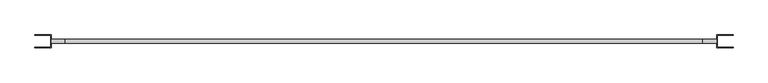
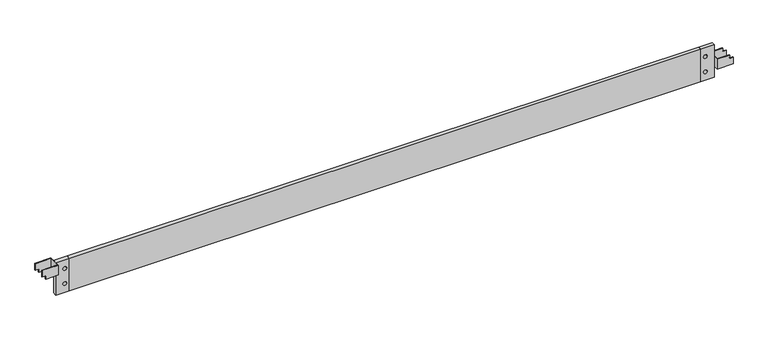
"""IFC4 building model written with IfcOpenShell, lengths in millimetres: proxy geometry, 12-Plinthe 3 m : JPA Plinthe 3 m."""

from ifc_helpers import new_model, si_unit, point, frame, frame_2d, origin, origin_with_axes, place, context, project, spatial, polyline, circle_curve, trimmed, segment, composite_curve, outline, extrude, source, transform, mapped, element, save
from ifc_brep_helpers import plane_surface, revolved_surface, advanced_brep


def generic_models_c9bf4d4e(model_context):
    return source(origin(), model_context, "Body", "SolidModel", [
        advanced_brep(
        [(3000.9896919, -27.4723419, 50.0), (3000.9896919, -27.4723419, 80.0), (2989.9896919, -27.4723419, 80.0), (2985.9896919, -27.4723419, 84.0), (2985.9896919, -27.4723419, 95.0), (2930.9896919, -27.4723419, 95.0), (2930.9896919, -27.4723419, 50.0), (3000.9896919, 27.5276581, 50.0), (2930.9896919, 27.5276581, 50.0), (2930.9896919, 27.5276581, 95.0), (2985.9896919, 27.5276581, 95.0), (2985.9896919, 27.5276581, 84.0), (2989.9896919, 27.5276581, 80.0), (3000.9896919, 27.5276581, 80.0), (3000.9896919, -24.9723419, 50.0), (3000.9896919, -24.9723419, 80.0), (3000.9896919, 25.0276581, 80.0), (3000.9896919, 25.0276581, 50.0), (2989.9896919, -24.9723419, 80.0), (2989.9896919, 25.0276581, 80.0), (2985.9896919, -24.9723419, 84.0), (2985.9896919, 25.0276581, 84.0), (2985.9896919, -24.9723419, 95.0), (2985.9896919, 25.0276581, 95.0), (2933.4896919, -24.9723419, 95.0), (2933.4896919, 25.0276581, 95.0), (2933.4896919, 25.0276581, 50.0), (2933.4896919, -24.9723419, 50.0)],
        [
            (0, 1),
            (1, 2),
            (2, 3, circle_curve(frame((2989.9896919, -27.4723419, 84.0), z_axis=(0.0, 1.0, 0.0), x_axis=(-1.0, 0.0, 0.0)), 4.0)),
            (3, 4),
            (4, 5),
            (5, 6),
            (6, 0),
            (7, 8),
            (8, 9),
            (9, 10),
            (10, 11),
            (11, 12, circle_curve(frame((2989.9896919, 27.5276581, 84.0), z_axis=(0.0, -1.0, 0.0), x_axis=(-1.0, 0.0, 0.0)), 4.0)),
            (12, 13),
            (13, 7),
            (0, 14),
            (14, 15),
            (15, 1),
            (13, 16),
            (16, 17),
            (17, 7),
            (15, 18),
            (18, 2),
            (12, 19),
            (19, 16),
            (18, 20, circle_curve(frame((2989.9896919, -24.9723419, 84.0), z_axis=(0.0, 1.0, 0.0), x_axis=(-1.0, 0.0, 0.0)), 4.0)),
            (20, 3),
            (11, 21),
            (21, 19, circle_curve(frame((2989.9896919, 25.0276581, 84.0), z_axis=(0.0, -1.0, 0.0), x_axis=(-1.0, 0.0, 0.0)), 4.0)),
            (20, 22),
            (22, 4),
            (10, 23),
            (23, 21),
            (22, 24),
            (24, 25),
            (25, 23),
            (9, 5),
            (8, 6),
            (17, 26),
            (26, 27),
            (27, 14),
            (27, 24),
            (25, 26),
        ],
        [
            plane_surface(frame((3000.9896919, -27.4723419, 50.0), z_axis=(0.0, -1.0, 0.0), x_axis=(0.0, 0.0, 1.0))),
            plane_surface(frame((3000.9896919, 27.5276581, 50.0), z_axis=(0.0, 1.0, 0.0), x_axis=(0.0, 0.0, -1.0))),
            plane_surface(frame((3000.9896919, -27.4723419, 50.0), z_axis=(1.0, 0.0, 0.0), x_axis=(0.0, 1.0, 0.0))),
            plane_surface(frame((3000.9896919, -27.4723419, 80.0), z_axis=(0.0, 0.0, 1.0), x_axis=(0.0, 1.0, 0.0))),
            revolved_surface(polyline([(2985.9896919, -24.9723419, 84.0), (2985.9896919, -27.4723419, 84.0)]), (2989.9896919, 27.5276581, 84.0), (0.0, 1.0, 0.0)),
            revolved_surface(polyline([(2985.9896919, 27.5276581, 84.0), (2985.9896919, 25.0276581, 84.0)]), (2989.9896919, 27.5276581, 84.0), (0.0, 1.0, 0.0)),
            plane_surface(frame((2985.9896919, -27.4723419, 84.0), z_axis=(1.0, 0.0, 0.0), x_axis=(0.0, 1.0, 0.0))),
            plane_surface(frame((2985.9896919, -27.4723419, 95.0), z_axis=(0.0, 0.0, 1.0), x_axis=(0.0, 1.0, 0.0))),
            plane_surface(frame((2930.9896919, -27.4723419, 95.0), z_axis=(-1.0, 0.0, 0.0), x_axis=(0.0, 1.0, 0.0))),
            plane_surface(frame((2930.9896919, -27.4723419, 50.0), z_axis=(0.0, 0.0, -1.0), x_axis=(0.0, 1.0, 0.0))),
            plane_surface(frame((2933.4896919, -24.9723419, 250.0), z_axis=(0.0, 1.0, 0.0), x_axis=(0.0, 0.0, -1.0))),
            plane_surface(frame((3000.9896919, 25.0276581, 250.0), z_axis=(0.0, -1.0, 0.0), x_axis=(0.0, 0.0, -1.0))),
            plane_surface(frame((2933.4896919, 25.0276581, 250.0), z_axis=(1.0, 0.0, 0.0), x_axis=(0.0, 0.0, -1.0))),
        ],
        [
            (0, [[1, 2, 3, 4, 5, 6, 7]]),
            (1, [[8, 9, 10, 11, 12, 13, 14]]),
            (2, [[-1, 15, 16, 17]]),
            (2, [[-14, 18, 19, 20]]),
            (3, [[-2, -17, 21, 22]]),
            (3, [[-13, 23, 24, -18]]),
            (4, [[-3, -22, 25, 26]]),
            (5, [[-12, 27, 28, -23]]),
            (6, [[-4, -26, 29, 30]]),
            (6, [[-11, 31, 32, -27]]),
            (7, [[-5, -30, 33, 34, 35, -31, -10, 36]]),
            (8, [[-6, -36, -9, 37]]),
            (9, [[-7, -37, -8, -20, 38, 39, 40, -15]]),
            (10, [[41, -33, -29, -25, -21, -16, -40]]),
            (11, [[42, -38, -19, -24, -28, -32, -35]]),
            (12, [[-41, -39, -42, -34]]),
        ],
    ),
        extrude(outline(polyline([(0.0, 2870.9896919), (0.0, 2930.9896919), (150.0, 2930.9896919), (150.0, 2870.9896919), (0.0, 2870.9896919)]), holes=[composite_curve([segment(trimmed(circle_curve(frame_2d((109.5264716, 2891.1192368)), 8.0), [point((109.5264716, 2899.1192368))], [point((109.5264716, 2883.1192368))], True, "CARTESIAN"), True, "CONTINUOUS"), segment(trimmed(circle_curve(frame_2d((109.5264716, 2891.1192368)), 8.0), [point((109.5264716, 2883.1192368))], [point((109.5264716, 2899.1192368))], True, "CARTESIAN"), True, "CONTINUOUS")], self_intersect=False), composite_curve([segment(trimmed(circle_curve(frame_2d((39.5264716, 2891.1192368)), 8.0), [point((39.5264716, 2899.1192368))], [point((39.5264716, 2883.1192368))], True, "CARTESIAN"), True, "CONTINUOUS"), segment(trimmed(circle_curve(frame_2d((39.5264716, 2891.1192368)), 8.0), [point((39.5264716, 2883.1192368))], [point((39.5264716, 2899.1192368))], True, "CARTESIAN"), True, "CONTINUOUS")], self_intersect=False)]), frame((0.0, -7.9723419, 0.0), z_axis=(0.0, 1.0, 0.0), x_axis=(0.0, 0.0, 1.0)), (0.0, 0.0, 1.0), 16.0),
        extrude(outline(polyline([(2870.9896919, -7.9723419), (116.9896919, -7.9723419), (116.9896919, 8.0276581), (2870.9896919, 8.0276581), (2870.9896919, -7.9723419)])), origin_with_axes(), (0.0, 0.0, 1.0), 150.0),
        extrude(outline(polyline([(0.0, 116.9896919), (150.0, 116.9896919), (150.0, 56.9896919), (0.0, 56.9896919), (0.0, 116.9896919)]), holes=[composite_curve([segment(trimmed(circle_curve(frame_2d((109.5264716, 96.860147)), 8.0), [point((109.5264716, 88.860147))], [point((109.5264716, 104.860147))], True, "CARTESIAN"), True, "CONTINUOUS"), segment(trimmed(circle_curve(frame_2d((109.5264716, 96.860147)), 8.0), [point((109.5264716, 104.860147))], [point((109.5264716, 88.860147))], True, "CARTESIAN"), True, "CONTINUOUS")], self_intersect=False), composite_curve([segment(trimmed(circle_curve(frame_2d((39.5264716, 96.860147)), 8.0), [point((39.5264716, 88.860147))], [point((39.5264716, 104.860147))], True, "CARTESIAN"), True, "CONTINUOUS"), segment(trimmed(circle_curve(frame_2d((39.5264716, 96.860147)), 8.0), [point((39.5264716, 104.860147))], [point((39.5264716, 88.860147))], True, "CARTESIAN"), True, "CONTINUOUS")], self_intersect=False)]), frame((0.0, -7.9723419, 0.0), z_axis=(0.0, 1.0, 0.0), x_axis=(0.0, 0.0, 1.0)), (0.0, 0.0, 1.0), 16.0),
        advanced_brep(
        [(-13.0103081, -27.4723419, 150.0), (-13.0103081, -27.4723419, 120.0), (-2.0103081, -27.4723419, 120.0), (1.9896919, -27.4723419, 116.0), (1.9896919, -27.4723419, 105.0), (56.9896919, -27.4723419, 105.0), (56.9896919, -27.4723419, 150.0), (-13.0103081, 27.5276581, 150.0), (56.9896919, 27.5276581, 150.0), (56.9896919, 27.5276581, 105.0), (1.9896919, 27.5276581, 105.0), (1.9896919, 27.5276581, 116.0), (-2.0103081, 27.5276581, 120.0), (-13.0103081, 27.5276581, 120.0), (-13.0103081, -24.9723419, 150.0), (-13.0103081, -24.9723419, 120.0), (-13.0103081, 25.0276581, 120.0), (-13.0103081, 25.0276581, 150.0), (-2.0103081, -24.9723419, 120.0), (-2.0103081, 25.0276581, 120.0), (1.9896919, -24.9723419, 116.0), (1.9896919, 25.0276581, 116.0), (1.9896919, -24.9723419, 105.0), (1.9896919, 25.0276581, 105.0), (54.4896919, -24.9723419, 105.0), (54.4896919, 25.0276581, 105.0), (54.4896919, 25.0276581, 150.0), (54.4896919, -24.9723419, 150.0)],
        [
            (0, 1),
            (1, 2),
            (2, 3, circle_curve(frame((-2.0103081, -27.4723419, 116.0), z_axis=(0.0, 1.0, 0.0), x_axis=(1.0, 0.0, 0.0)), 4.0)),
            (3, 4),
            (4, 5),
            (5, 6),
            (6, 0),
            (7, 8),
            (8, 9),
            (9, 10),
            (10, 11),
            (11, 12, circle_curve(frame((-2.0103081, 27.5276581, 116.0), z_axis=(0.0, -1.0, 0.0), x_axis=(1.0, 0.0, 0.0)), 4.0)),
            (12, 13),
            (13, 7),
            (0, 14),
            (14, 15),
            (15, 1),
            (13, 16),
            (16, 17),
            (17, 7),
            (15, 18),
            (18, 2),
            (12, 19),
            (19, 16),
            (18, 20, circle_curve(frame((-2.0103081, -24.9723419, 116.0), z_axis=(0.0, 1.0, 0.0), x_axis=(1.0, 0.0, 0.0)), 4.0)),
            (20, 3),
            (11, 21),
            (21, 19, circle_curve(frame((-2.0103081, 25.0276581, 116.0), z_axis=(0.0, -1.0, 0.0), x_axis=(1.0, 0.0, 0.0)), 4.0)),
            (20, 22),
            (22, 4),
            (10, 23),
            (23, 21),
            (22, 24),
            (24, 25),
            (25, 23),
            (9, 5),
            (8, 6),
            (17, 26),
            (26, 27),
            (27, 14),
            (25, 26),
            (27, 24),
        ],
        [
            plane_surface(frame((-13.0103081, -27.4723419, 150.0), z_axis=(0.0, -1.0, 0.0), x_axis=(0.0, 0.0, -1.0))),
            plane_surface(frame((-13.0103081, 27.5276581, 150.0), z_axis=(0.0, 1.0, 0.0), x_axis=(0.0, 0.0, 1.0))),
            plane_surface(frame((-13.0103081, -27.4723419, 150.0), z_axis=(-1.0, 0.0, 0.0), x_axis=(0.0, 1.0, 0.0))),
            plane_surface(frame((-13.0103081, -27.4723419, 120.0), z_axis=(0.0, 0.0, -1.0), x_axis=(0.0, 1.0, 0.0))),
            revolved_surface(polyline([(1.9896919, -24.9723419, 116.0), (1.9896919, -27.4723419, 116.0)]), (-2.0103081, 27.5276581, 116.0), (0.0, 1.0, 0.0)),
            revolved_surface(polyline([(1.9896919, 27.5276581, 116.0), (1.9896919, 25.0276581, 116.0)]), (-2.0103081, 27.5276581, 116.0), (0.0, 1.0, 0.0)),
            plane_surface(frame((1.9896919, -27.4723419, 116.0), z_axis=(-1.0, 0.0, 0.0), x_axis=(0.0, 1.0, 0.0))),
            plane_surface(frame((1.9896919, -27.4723419, 105.0), z_axis=(0.0, 0.0, -1.0), x_axis=(0.0, 1.0, 0.0))),
            plane_surface(frame((56.9896919, -27.4723419, 105.0), z_axis=(1.0, 0.0, 0.0), x_axis=(0.0, 1.0, 0.0))),
            plane_surface(frame((56.9896919, -27.4723419, 150.0), z_axis=(0.0, 0.0, 1.0), x_axis=(0.0, 1.0, 0.0))),
            plane_surface(frame((54.4896919, 25.0276581, 162.2284167), z_axis=(0.0, -1.0, 0.0), x_axis=(0.0, 0.0, -1.0))),
            plane_surface(frame((-13.0103081, -24.9723419, 162.2284167), z_axis=(0.0, 1.0, 0.0), x_axis=(0.0, 0.0, -1.0))),
            plane_surface(frame((54.4896919, -24.9723419, 162.2284167), z_axis=(-1.0, 0.0, 0.0), x_axis=(0.0, 0.0, -1.0))),
        ],
        [
            (0, [[1, 2, 3, 4, 5, 6, 7]]),
            (1, [[8, 9, 10, 11, 12, 13, 14]]),
            (2, [[-1, 15, 16, 17]]),
            (2, [[-14, 18, 19, 20]]),
            (3, [[-2, -17, 21, 22]]),
            (3, [[-13, 23, 24, -18]]),
            (4, [[-3, -22, 25, 26]]),
            (5, [[-12, 27, 28, -23]]),
            (6, [[-4, -26, 29, 30]]),
            (6, [[-11, 31, 32, -27]]),
            (7, [[-5, -30, 33, 34, 35, -31, -10, 36]]),
            (8, [[-6, -36, -9, 37]]),
            (9, [[-7, -37, -8, -20, 38, 39, 40, -15]]),
            (10, [[41, -38, -19, -24, -28, -32, -35]]),
            (11, [[42, -33, -29, -25, -21, -16, -40]]),
            (12, [[-41, -34, -42, -39]]),
        ],
    ),
    ])


if __name__ == "__main__":
    model = new_model("IFC4")
    model_context = context("Model", 3, world=origin())
    ifc_project = project(units=[si_unit("LENGTHUNIT", "METRE", prefix="MILLI")], contexts=[model_context])
    site = spatial("IfcSite", under=ifc_project)
    building = spatial("IfcBuilding", under=site)
    placement = place(None, origin())
    generic_models_shape = generic_models_c9bf4d4e(model_context)
    element("IfcBuildingElementProxy", 1, Name="12-Plinthe 3 m : JPA Plinthe 3 m", ObjectType="12-Plinthe 3 m : JPA Plinthe 3 m", at=placement, inside=building, context=model_context, shape_type="MappedRepresentation", body=[
        mapped(generic_models_shape, transform((0.0, 0.0, 0.0), x_axis=(1.0, 0.0, 0.0), y_axis=(0.0, 1.0, 0.0), z_axis=(0.0, 0.0, 1.0))),
    ])
    save(model, "model.ifc")
